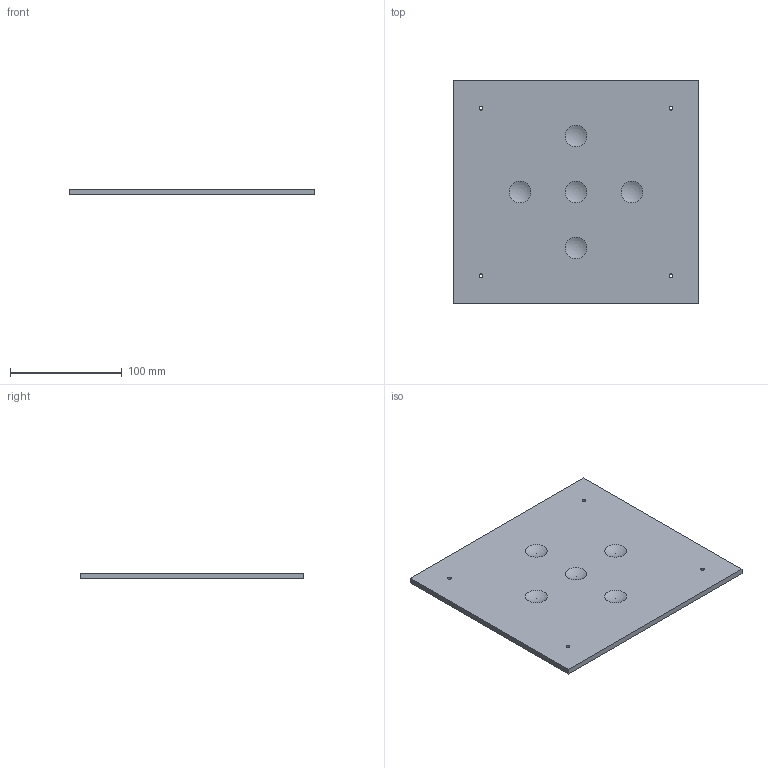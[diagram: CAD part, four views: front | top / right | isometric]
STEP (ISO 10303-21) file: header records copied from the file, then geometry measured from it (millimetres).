
FILE_DESCRIPTION(('Open CASCADE Model'),'2;1');
FILE_NAME('Open CASCADE Shape Model','2026-10-21T17:23:52',('Author'),( 'Open CASCADE'),'Open CASCADE STEP processor 7.9','Open CASCADE 7.9' ,'Unknown');
FILE_SCHEMA(('AUTOMOTIVE_DESIGN { 1 0 10303 214 1 1 1 1 }'));
Length unit declared in the file: millimetre
Products named in the file (1): Open CASCADE STEP translator 7.9 45
Bounding box: 220 x 200 x 5 mm (x, y, z)
Volume: 217917.1 mm3; surface area: 92439.2 mm2
Topology: 1 solids, 1 shells, 15 faces, 39 edges, 26 vertices
Faces by surface type: plane 6, sphere 5, cylinder 4
Full cylindrical faces by diameter (mm): 3.4 x4
Entity records: 938 total; most frequent: CARTESIAN_POINT 192, DIRECTION 144, LINE 71, VECTOR 71, ORIENTED_EDGE 68, PCURVE 68, DEFINITIONAL_REPRESENTATION 68, AXIS2_PLACEMENT_3D 34
